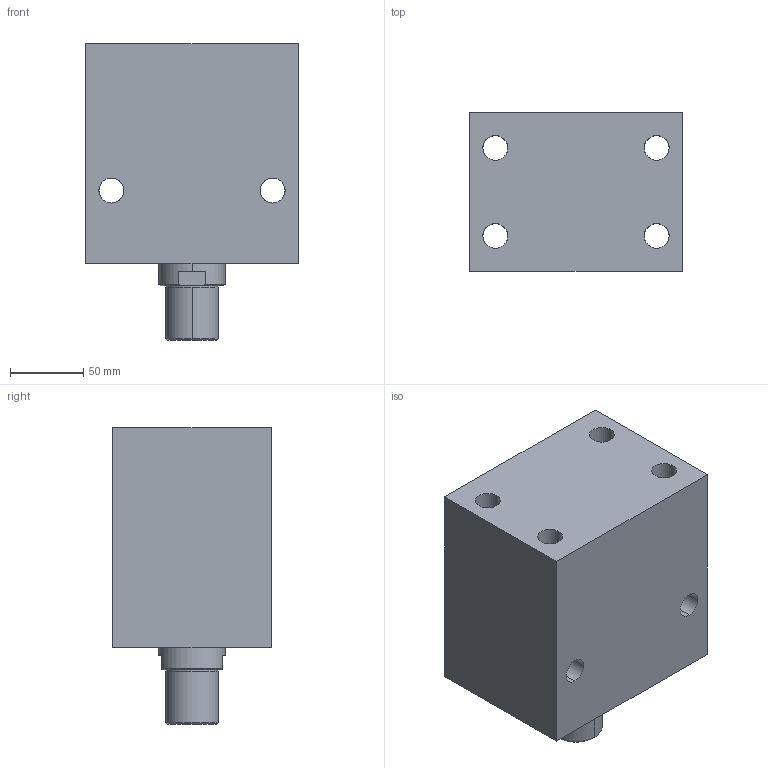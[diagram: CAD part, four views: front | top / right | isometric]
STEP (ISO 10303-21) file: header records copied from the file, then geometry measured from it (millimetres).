
FILE_DESCRIPTION (( 'STEP AP203' ), '1' );
FILE_NAME ('Block cylinder B01C-775M.STEP', '2022-07-09T18:17:33', ( '' ), ( '' ), 'SwSTEP 2.0', 'SolidWorks 2017', '' );
FILE_SCHEMA (( 'CONFIG_CONTROL_DESIGN' ));
Length unit declared in the file: millimetre
Products named in the file (3): Body_ 775M_50ST; Piston _775M; Block cylinder B01C-775M
Assembly tree (2 placements, depth 2):
  Block cylinder B01C-775M
    Body_ 775M_50ST
    Piston _775M
Bounding box: 145 x 108 x 202 mm (x, y, z)
Volume: 2382859.8 mm3; surface area: 178071.6 mm2
Topology: 2 solids, 2 shells, 344 faces, 939 edges, 614 vertices
Faces by surface type: plane 155, bspline 135, cylinder 46, cone 8
Entity records: 16538 total; most frequent: CARTESIAN_POINT 8497, ORIENTED_EDGE 1870, DIRECTION 1125, EDGE_CURVE 935, VERTEX_POINT 614, VECTOR 561, LINE 561, EDGE_LOOP 383
